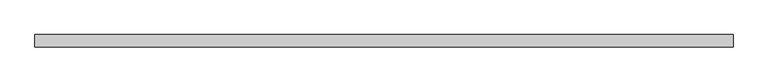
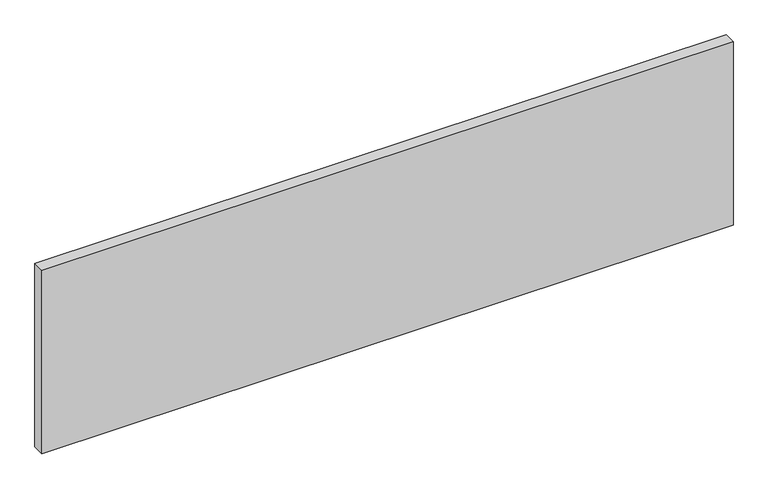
"""IFC4 building model written with IfcOpenShell, lengths in millimetres: plate geometry, Системная панель : С остеклением."""

from ifc_helpers import new_model, si_unit, origin, origin_with_axes, place, context, project, spatial, polyline, outline, extrude, source, transform, mapped, element, save


def plate_82ffb95b(model_context):
    return source(origin(), model_context, "Body", "SweptSolid", [
        extrude(outline(polyline([(712.5, 24.5), (-712.5, 24.5), (-712.5, 49.5), (712.5, 49.5), (712.5, 24.5)])), origin_with_axes(), (0.0, 0.0, 1.0), 400.0),
    ])


if __name__ == "__main__":
    model = new_model("IFC4")
    model_context = context("Model", 3, world=origin())
    ifc_project = project(units=[si_unit("LENGTHUNIT", "METRE", prefix="MILLI")], contexts=[model_context])
    site = spatial("IfcSite", under=ifc_project)
    building = spatial("IfcBuilding", under=site)
    placement = place(None, origin())
    plate_shape = plate_82ffb95b(model_context)
    element("IfcPlate", 1, ObjectType="Системная панель : С остеклением", at=placement, inside=building, context=model_context, shape_type="MappedRepresentation", body=[
        mapped(plate_shape, transform((0.0, 0.0, 0.0), x_axis=(1.0, 0.0, 0.0), y_axis=(0.0, 1.0, 0.0), z_axis=(0.0, 0.0, 1.0))),
    ])
    save(model, "model.ifc")
